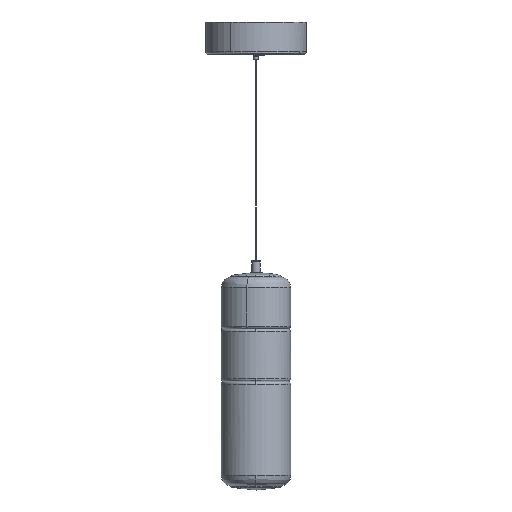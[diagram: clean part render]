
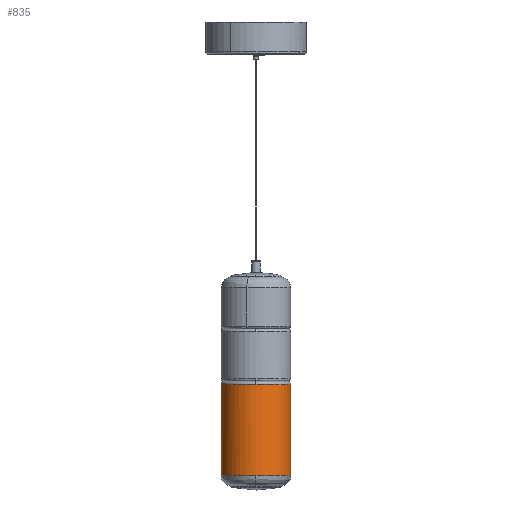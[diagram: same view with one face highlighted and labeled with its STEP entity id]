
A CAD part, front view. The second image highlights one B-rep face of the part: STEP entity #835.
In plain terms, the highlighted cylindrical face has radius 50 mm (diameter 100 mm), a partial arc.
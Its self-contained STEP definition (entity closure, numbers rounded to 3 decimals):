
#835=ADVANCED_FACE('',(#1558),#11544,.T.);
#1558=FACE_OUTER_BOUND('',#2339,.T.);
#2339=EDGE_LOOP('',(#4227,#4228,#4229,#4230,#4231,#4232));
#4227=ORIENTED_EDGE('',*,*,#7136,.T.);
#4228=ORIENTED_EDGE('',*,*,#7113,.F.);
#4229=ORIENTED_EDGE('',*,*,#7116,.T.);
#4230=ORIENTED_EDGE('',*,*,#7120,.F.);
#4231=ORIENTED_EDGE('',*,*,#7118,.T.);
#4232=ORIENTED_EDGE('',*,*,#7119,.T.);
#7113=EDGE_CURVE('',#10431,#10432,#8667,.T.);
#7116=EDGE_CURVE('',#10431,#10433,#8670,.T.);
#7118=EDGE_CURVE('',#10435,#10436,#8672,.T.);
#7119=EDGE_CURVE('',#10436,#10434,#8673,.T.);
#7120=EDGE_CURVE('',#10435,#10433,#9433,.T.);
#7136=EDGE_CURVE('',#10434,#10432,#9437,.T.);
#8667=(
BOUNDED_CURVE()
B_SPLINE_CURVE(2,(#19417,#19418,#19419),.UNSPECIFIED.,.F.,.F.)
B_SPLINE_CURVE_WITH_KNOTS((3,3),(144.513,216.77),
 .UNSPECIFIED.)
CURVE()
GEOMETRIC_REPRESENTATION_ITEM()
RATIONAL_B_SPLINE_CURVE((1.,0.707,1.))
REPRESENTATION_ITEM('')
);
#8670=(
BOUNDED_CURVE()
B_SPLINE_CURVE(2,(#19428,#19429,#19430),.UNSPECIFIED.,.F.,.F.)
B_SPLINE_CURVE_WITH_KNOTS((3,3),(0.,78.54),.UNSPECIFIED.)
CURVE()
GEOMETRIC_REPRESENTATION_ITEM()
RATIONAL_B_SPLINE_CURVE((1.,0.707,1.))
REPRESENTATION_ITEM('')
);
#8672=(
BOUNDED_CURVE()
B_SPLINE_CURVE(2,(#19434,#19435,#19436),.UNSPECIFIED.,.F.,.F.)
B_SPLINE_CURVE_WITH_KNOTS((3,3),(157.08,235.619),
 .UNSPECIFIED.)
CURVE()
GEOMETRIC_REPRESENTATION_ITEM()
RATIONAL_B_SPLINE_CURVE((1.,0.707,1.))
REPRESENTATION_ITEM('')
);
#8673=(
BOUNDED_CURVE()
B_SPLINE_CURVE(2,(#19437,#19438,#19439),.UNSPECIFIED.,.F.,.F.)
B_SPLINE_CURVE_WITH_KNOTS((3,3),(0.,78.54),.UNSPECIFIED.)
CURVE()
GEOMETRIC_REPRESENTATION_ITEM()
RATIONAL_B_SPLINE_CURVE((1.,0.707,1.))
REPRESENTATION_ITEM('')
);
#9433=B_SPLINE_CURVE_WITH_KNOTS('',1,(#19440,#19441),.UNSPECIFIED.,.F.,
 .F.,(2,2),(13.22,144.22),.UNSPECIFIED.);
#9437=B_SPLINE_CURVE_WITH_KNOTS('',1,(#19488,#19489),.UNSPECIFIED.,.F.,
 .F.,(2,2),(13.22,144.22),.UNSPECIFIED.);
#10431=VERTEX_POINT('',#19253);
#10432=VERTEX_POINT('',#19254);
#10433=VERTEX_POINT('',#19255);
#10434=VERTEX_POINT('',#19256);
#10435=VERTEX_POINT('',#19257);
#10436=VERTEX_POINT('',#19258);
#11544=CYLINDRICAL_SURFACE('',#11956,50.);
#11956=AXIS2_PLACEMENT_3D('',#18811,#12506,$);
#12506=DIRECTION('',(0.,0.,1.));
#18811=CARTESIAN_POINT('',(0.,0.,-585.564));
#19253=CARTESIAN_POINT('',(0.,-50.,-520.064));
#19254=CARTESIAN_POINT('',(50.,0.,-520.064));
#19255=CARTESIAN_POINT('',(-50.,0.,-520.064));
#19256=CARTESIAN_POINT('',(50.,0.,-651.064));
#19257=CARTESIAN_POINT('',(-50.,0.,-651.064));
#19258=CARTESIAN_POINT('',(0.,-50.,-651.064));
#19417=CARTESIAN_POINT('',(0.,-50.,-520.064));
#19418=CARTESIAN_POINT('',(50.,-50.,-520.064));
#19419=CARTESIAN_POINT('',(50.,0.,-520.064));
#19428=CARTESIAN_POINT('',(0.,-50.,-520.064));
#19429=CARTESIAN_POINT('',(-50.,-50.,-520.064));
#19430=CARTESIAN_POINT('',(-50.,0.,-520.064));
#19434=CARTESIAN_POINT('',(-50.,0.,-651.064));
#19435=CARTESIAN_POINT('',(-50.,-50.,-651.064));
#19436=CARTESIAN_POINT('',(0.,-50.,-651.064));
#19437=CARTESIAN_POINT('',(0.,-50.,-651.064));
#19438=CARTESIAN_POINT('',(50.,-50.,-651.064));
#19439=CARTESIAN_POINT('',(50.,0.,-651.064));
#19440=CARTESIAN_POINT('',(-50.,0.,-651.064));
#19441=CARTESIAN_POINT('',(-50.,0.,-520.064));
#19488=CARTESIAN_POINT('',(50.,0.,-651.064));
#19489=CARTESIAN_POINT('',(50.,0.,-520.064));
